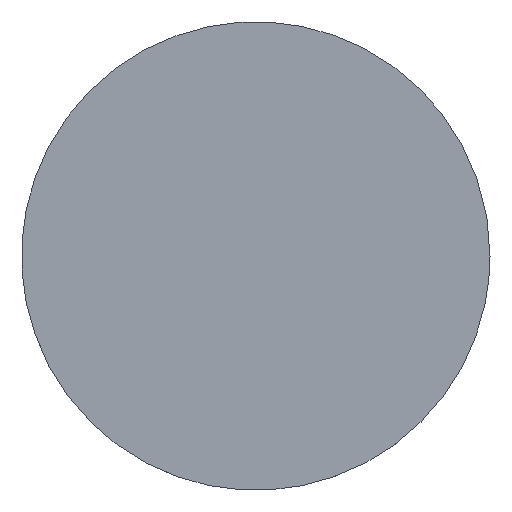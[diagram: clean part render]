
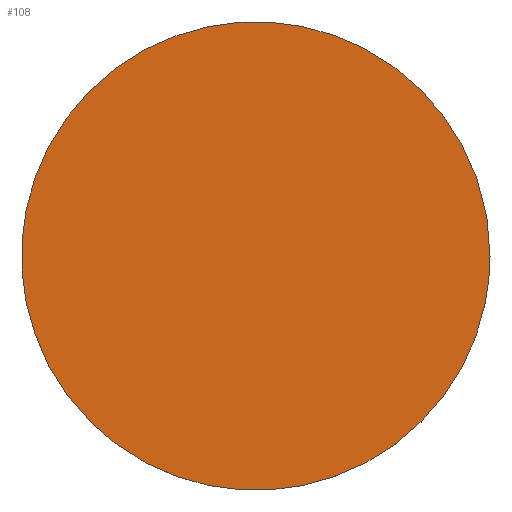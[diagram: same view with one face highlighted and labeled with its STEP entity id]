
A CAD part, top view. The second image highlights one B-rep face of the part: STEP entity #108.
In plain terms, the highlighted planar face has unit normal (0, 0, 1).
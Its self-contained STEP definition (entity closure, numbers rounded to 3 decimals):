
#108=ADVANCED_FACE('',(#134),#375,.T.);
#134=FACE_OUTER_BOUND('',#160,.T.);
#160=EDGE_LOOP('',(#191));
#191=ORIENTED_EDGE('',*,*,#284,.T.);
#284=EDGE_CURVE('',#343,#343,#332,.T.);
#332=(
BOUNDED_CURVE()
B_SPLINE_CURVE(2,(#503,#504,#505,#506,#507,#508,#509,#510,#511),
 .UNSPECIFIED.,.T.,.F.)
B_SPLINE_CURVE_WITH_KNOTS((3,2,2,2,3),(0.,1413.717,2827.433,
4241.15,5654.867),.UNSPECIFIED.)
CURVE()
GEOMETRIC_REPRESENTATION_ITEM()
RATIONAL_B_SPLINE_CURVE((1.,0.707,1.,0.707,1.,0.707,
1.,0.707,1.))
REPRESENTATION_ITEM('')
);
#343=VERTEX_POINT('',#491);
#375=PLANE('',#421);
#421=AXIS2_PLACEMENT_3D('',#489,#446,$);
#446=DIRECTION('',(0.,0.,1.));
#489=CARTESIAN_POINT('',(1041.598,248.266,748.152));
#491=CARTESIAN_POINT('',(3066.598,1373.266,748.152));
#503=CARTESIAN_POINT('',(3066.598,1373.266,748.152));
#504=CARTESIAN_POINT('',(3066.598,2273.266,748.152));
#505=CARTESIAN_POINT('',(2166.598,2273.266,748.152));
#506=CARTESIAN_POINT('',(1266.598,2273.266,748.152));
#507=CARTESIAN_POINT('',(1266.598,1373.266,748.152));
#508=CARTESIAN_POINT('',(1266.598,473.266,748.152));
#509=CARTESIAN_POINT('',(2166.598,473.266,748.152));
#510=CARTESIAN_POINT('',(3066.598,473.266,748.152));
#511=CARTESIAN_POINT('',(3066.598,1373.266,748.152));
